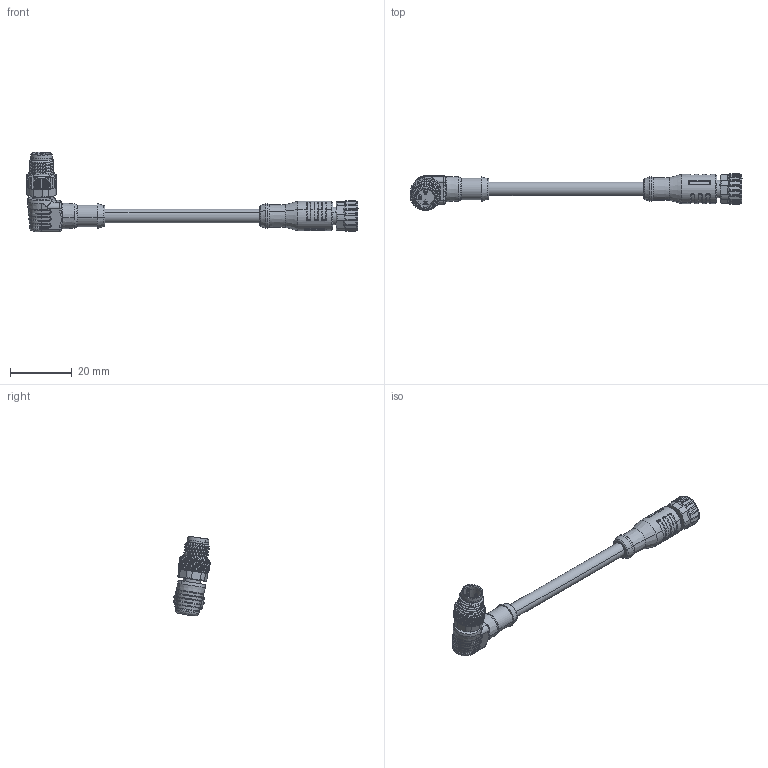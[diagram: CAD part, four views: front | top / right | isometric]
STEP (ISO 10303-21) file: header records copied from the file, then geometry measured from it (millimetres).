
FILE_DESCRIPTION (( 'STEP AP203' ), '1' );
FILE_NAME ('63D041-XXX.STEP', '2023-09-08T01:04:56', ( 'ADMIN' ), ( '' ), 'SwSTEP 2.0', 'SolidWorks 2016', '' );
FILE_SCHEMA (( 'CONFIG_CONTROL_DESIGN' ));
Length unit declared in the file: millimetre
Products named in the file (1): 63D041-XXX
Bounding box: 107.15 x 11.93 x 25.76 mm (x, y, z)
Volume: 4513.7 mm3; surface area: 4308 mm2
Topology: 1 solids, 1 shells, 1180 faces, 3196 edges, 2034 vertices
Faces by surface type: plane 434, cylinder 365, cone 169, bspline 130, torus 82
Entity records: 47804 total; most frequent: CARTESIAN_POINT 21475, ORIENTED_EDGE 6380, DIRECTION 4220, EDGE_CURVE 3190, VERTEX_POINT 2034, AXIS2_PLACEMENT_3D 1606, B_SPLINE_CURVE_WITH_KNOTS 1563, EDGE_LOOP 1214
